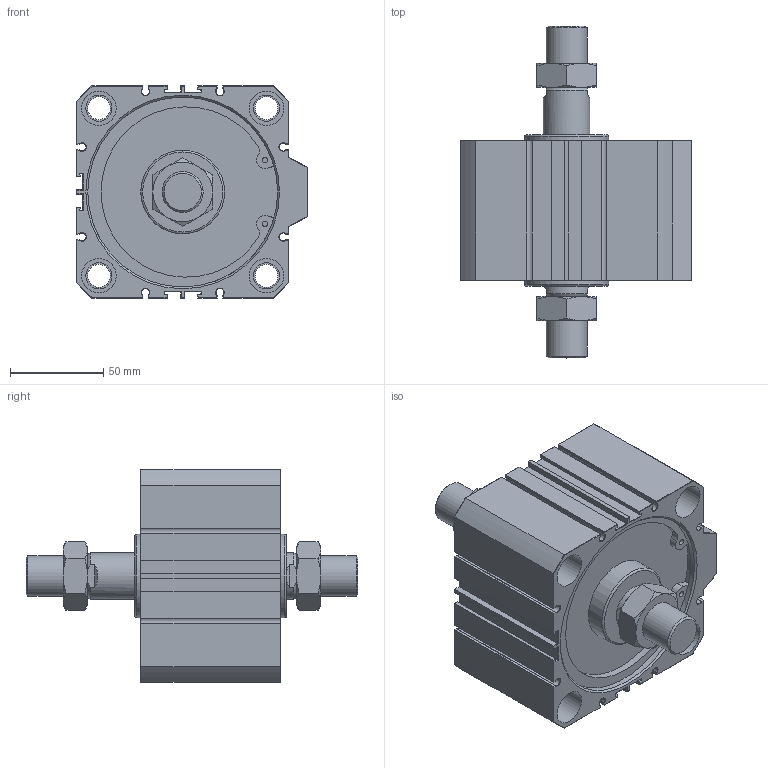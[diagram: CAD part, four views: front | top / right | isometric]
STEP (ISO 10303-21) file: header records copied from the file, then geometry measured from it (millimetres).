
FILE_DESCRIPTION(/* description */ (''),/* implementation_level */ '2;1');
FILE_NAME(/* name */ 'AJC-SWM100X20W',/* time_stamp */ '2019-07-19T15:06:38+08:00',/* author */ ('JEFF HUANG'),/* organization */ ('TAIWAN AMAC CLAMP INDUSTRIAL CO., LTD.'),/* preprocessor_version */ 'ST-DEVELOPER v16.7',/* originating_system */ 'DEX',/* authorisation */ $);
FILE_SCHEMA (('AUTOMOTIVE_DESIGN {1 0 10303 214 3 1 1}'));
Length unit declared in the file: millimetre
Products named in the file (1): AJC-SWM100X20W
Bounding box: 124 x 178.3 x 114 mm (x, y, z)
Volume: 879435.4 mm3; surface area: 101900.5 mm2
Topology: 1 solids, 1 shells, 433 faces, 971 edges, 540 vertices
Faces by surface type: plane 266, cone 90, cylinder 75, torus 2
Full cylindrical faces by diameter (mm): 3 x4, 12.3 x4, 14 x8, 15.806 x2, 18.5 x8, 22 x2, 25 x1, 45 x2, 102 x2
Entity records: 14297 total; most frequent: CARTESIAN_POINT 2088, DIRECTION 1906, ORIENTED_EDGE 1782, EDGE_CURVE 891, AXIS2_PLACEMENT_3D 653, LINE 600, VECTOR 600, VERTEX_POINT 533
